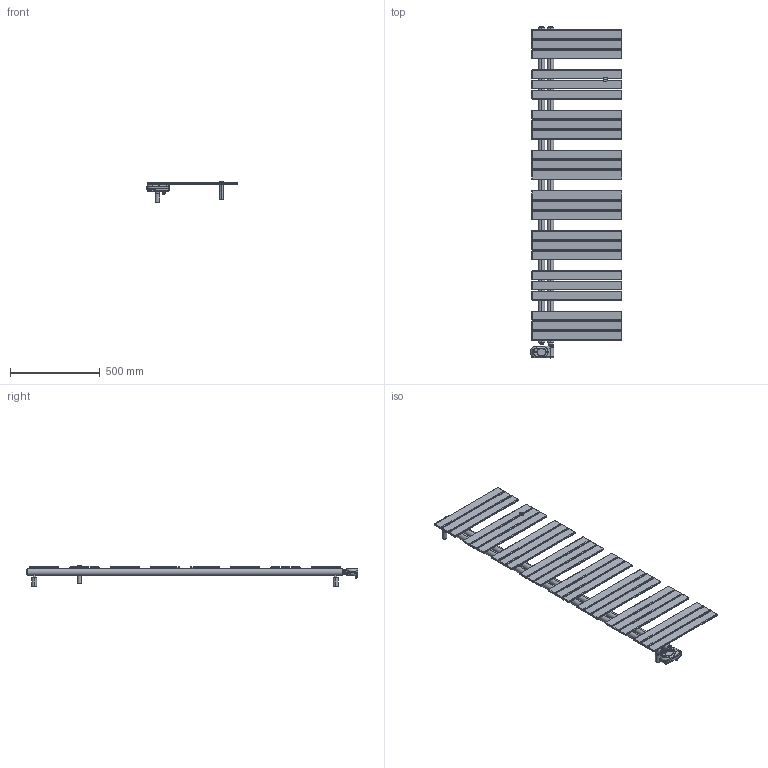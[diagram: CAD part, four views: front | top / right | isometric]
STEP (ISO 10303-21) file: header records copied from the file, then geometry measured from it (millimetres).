
FILE_DESCRIPTION((''),'2;1');
FILE_NAME('3581726105044_3D_SITO_ASM','2023-10-16T14:07:36',('PC132'),(''),'CREO PARAMETRIC BY PTC INC, 2023092','CREO PARAMETRIC BY PTC INC, 2023092','');
FILE_SCHEMA(());
Length unit declared in the file: millimetre
Products named in the file (8): 2551720500004_3D_SITO; 1010181240001; 1117000001010; 1035270000037_FRONT; 1035270000037_BACK; 1035270000021_ASM; BOTT_GIUNTO_KELLY_RAD50X10; 3581726105044_3D_SITO_ASM
Assembly tree (9 placements, depth 3):
  3581726105044_3D_SITO_ASM
    2551720500004_3D_SITO
    1010181240001  x3
    1117000001010
    1035270000021_ASM
      1035270000037_FRONT
      1035270000037_BACK
    BOTT_GIUNTO_KELLY_RAD50X10
Bounding box: 508 x 1850 x 115.5 mm (x, y, z)
Volume: 10386043.8 mm3; surface area: 1935684.1 mm2
Topology: 35 solids, 37 shells, 1108 faces, 2636 edges, 1753 vertices
Faces by surface type: cylinder 430, plane 298, bspline 249, torus 58, cone 50, sphere 23
Entity records: 42470 total; most frequent: CARTESIAN_POINT 19181, DIRECTION 5149, ORIENTED_EDGE 4574, EDGE_CURVE 2292, AXIS2_PLACEMENT_3D 2047, VERTEX_POINT 1347, CIRCLE 1214, EDGE_LOOP 1067
